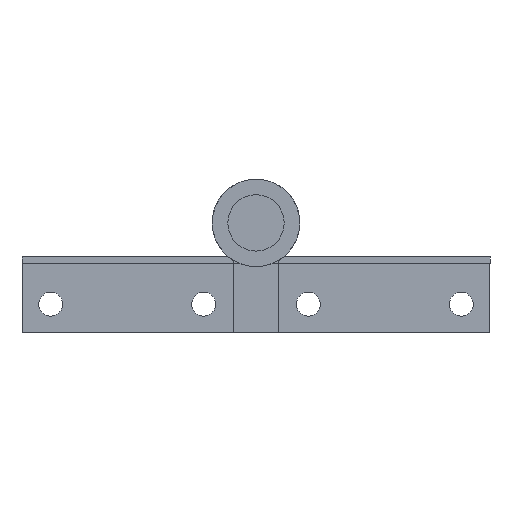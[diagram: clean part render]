
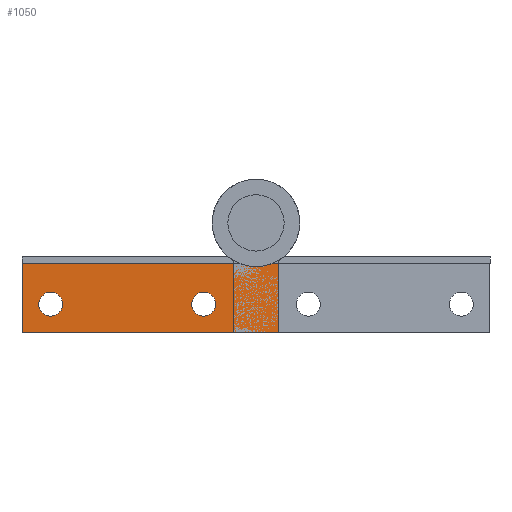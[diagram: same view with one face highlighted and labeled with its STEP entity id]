
A CAD part, front view. The second image highlights one B-rep face of the part: STEP entity #1050.
In plain terms, the highlighted planar face has unit normal (0, -1, 0).
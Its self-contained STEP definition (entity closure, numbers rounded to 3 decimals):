
#132 = EDGE_LOOP ( 'NONE', ( #1713, #1714 ) ) ;
#135 = EDGE_LOOP ( 'NONE', ( #1715, #1716 ) ) ;
#137 = EDGE_LOOP ( 'NONE', ( #1717, #1718, #1719, #1720 ) ) ;
#190 = CARTESIAN_POINT ( 'NONE',  ( -13.45, 533.2, -17. ) ) ;
#208 = CARTESIAN_POINT ( 'NONE',  ( -48.95, 533.2, -8.5 ) ) ;
#210 = CARTESIAN_POINT ( 'NONE',  ( -48.95, 533.2, -23. ) ) ;
#240 = CARTESIAN_POINT ( 'NONE',  ( 4.75, 533.2, -23. ) ) ;
#242 = CARTESIAN_POINT ( 'NONE',  ( 4.75, 533.2, -8.5 ) ) ;
#273 = CARTESIAN_POINT ( 'NONE',  ( -45.45, 533.2, -17. ) ) ;
#277 = CARTESIAN_POINT ( 'NONE',  ( -40.45, 533.2, -17. ) ) ;
#284 = CARTESIAN_POINT ( 'NONE',  ( -8.45, 533.2, -17. ) ) ;
#308 = VERTEX_POINT ( 'NONE', #284 ) ;
#315 = VERTEX_POINT ( 'NONE', #277 ) ;
#319 = VERTEX_POINT ( 'NONE', #273 ) ;
#350 = VERTEX_POINT ( 'NONE', #242 ) ;
#352 = VERTEX_POINT ( 'NONE', #240 ) ;
#382 = VERTEX_POINT ( 'NONE', #210 ) ;
#384 = VERTEX_POINT ( 'NONE', #208 ) ;
#402 = VERTEX_POINT ( 'NONE', #190 ) ;
#491 = PLANE ( 'NONE',  #2094 ) ;
#495 = CARTESIAN_POINT ( 'NONE',  ( 9.15, 533.2, -23. ) ) ;
#496 = DIRECTION ( 'NONE',  ( 0., 1., 0. ) ) ;
#497 = DIRECTION ( 'NONE',  ( 1., 0., 0. ) ) ;
#682 = CARTESIAN_POINT ( 'NONE',  ( -10.95, 533.2, -17. ) ) ;
#683 = DIRECTION ( 'NONE',  ( 0., 1., 0. ) ) ;
#684 = DIRECTION ( 'NONE',  ( 1., 0., 0. ) ) ;
#796 = CARTESIAN_POINT ( 'NONE',  ( -42.95, 533.2, -17. ) ) ;
#806 = DIRECTION ( 'NONE',  ( 0., 1., 0. ) ) ;
#807 = DIRECTION ( 'NONE',  ( 1., 0., 0. ) ) ;
#832 = CARTESIAN_POINT ( 'NONE',  ( -48.95, 533.2, -23. ) ) ;
#833 = DIRECTION ( 'NONE',  ( 0., 0., -1. ) ) ;
#859 = CARTESIAN_POINT ( 'NONE',  ( -10.95, 533.2, -17. ) ) ;
#872 = DIRECTION ( 'NONE',  ( 0., 1., 0. ) ) ;
#873 = DIRECTION ( 'NONE',  ( 1., 0., 0. ) ) ;
#898 = CARTESIAN_POINT ( 'NONE',  ( 9.15, 533.2, -23. ) ) ;
#901 = DIRECTION ( 'NONE',  ( -1., 0., 0. ) ) ;
#924 = CARTESIAN_POINT ( 'NONE',  ( -42.95, 533.2, -17. ) ) ;
#933 = DIRECTION ( 'NONE',  ( 0., 1., 0. ) ) ;
#934 = DIRECTION ( 'NONE',  ( 1., 0., 0. ) ) ;
#973 = CARTESIAN_POINT ( 'NONE',  ( 4.75, 533.2, -23. ) ) ;
#974 = DIRECTION ( 'NONE',  ( 0., 0., -1. ) ) ;
#979 = CARTESIAN_POINT ( 'NONE',  ( 9.15, 533.2, -8.5 ) ) ;
#980 = DIRECTION ( 'NONE',  ( -1., 0., 0. ) ) ;
#1050 = ADVANCED_FACE ( 'NONE', ( #1484, #1482, #1480 ), #491, .F. ) ;
#1102 = AXIS2_PLACEMENT_3D ( 'NONE', #924, #933, #934 ) ;
#1106 = AXIS2_PLACEMENT_3D ( 'NONE', #859, #872, #873 ) ;
#1111 = VECTOR ( 'NONE', #980, 1000. ) ;
#1112 = LINE ( 'NONE', #979, #1111 ) ;
#1119 = VECTOR ( 'NONE', #974, 1000. ) ;
#1120 = LINE ( 'NONE', #973, #1119 ) ;
#1147 = CIRCLE ( 'NONE', #1102, 2.5 ) ;
#1170 = VECTOR ( 'NONE', #901, 1000. ) ;
#1188 = CIRCLE ( 'NONE', #1106, 2.5 ) ;
#1191 = LINE ( 'NONE', #898, #1170 ) ;
#1224 = VECTOR ( 'NONE', #833, 1000. ) ;
#1225 = LINE ( 'NONE', #832, #1224 ) ;
#1243 = CIRCLE ( 'NONE', #1954, 2.5 ) ;
#1346 = CIRCLE ( 'NONE', #1990, 2.5 ) ;
#1480 = FACE_OUTER_BOUND ( 'NONE', #137, .T. ) ;
#1482 = FACE_BOUND ( 'NONE', #135, .T. ) ;
#1484 = FACE_BOUND ( 'NONE', #132, .T. ) ;
#1713 = ORIENTED_EDGE ( 'NONE', *, *, #2036, .T. ) ;
#1714 = ORIENTED_EDGE ( 'NONE', *, *, #1888, .T. ) ;
#1715 = ORIENTED_EDGE ( 'NONE', *, *, #1982, .T. ) ;
#1716 = ORIENTED_EDGE ( 'NONE', *, *, #2073, .T. ) ;
#1717 = ORIENTED_EDGE ( 'NONE', *, *, #2105, .T. ) ;
#1718 = ORIENTED_EDGE ( 'NONE', *, *, #2005, .T. ) ;
#1719 = ORIENTED_EDGE ( 'NONE', *, *, #2048, .F. ) ;
#1720 = ORIENTED_EDGE ( 'NONE', *, *, #2102, .F. ) ;
#1888 = EDGE_CURVE ( 'NONE', #308, #402, #1346, .T. ) ;
#1954 = AXIS2_PLACEMENT_3D ( 'NONE', #796, #806, #807 ) ;
#1982 = EDGE_CURVE ( 'NONE', #319, #315, #1243, .T. ) ;
#1990 = AXIS2_PLACEMENT_3D ( 'NONE', #682, #683, #684 ) ;
#2005 = EDGE_CURVE ( 'NONE', #384, #382, #1225, .T. ) ;
#2036 = EDGE_CURVE ( 'NONE', #402, #308, #1188, .T. ) ;
#2048 = EDGE_CURVE ( 'NONE', #352, #382, #1191, .T. ) ;
#2073 = EDGE_CURVE ( 'NONE', #315, #319, #1147, .T. ) ;
#2094 = AXIS2_PLACEMENT_3D ( 'NONE', #495, #496, #497 ) ;
#2102 = EDGE_CURVE ( 'NONE', #350, #352, #1120, .T. ) ;
#2105 = EDGE_CURVE ( 'NONE', #350, #384, #1112, .T. ) ;
